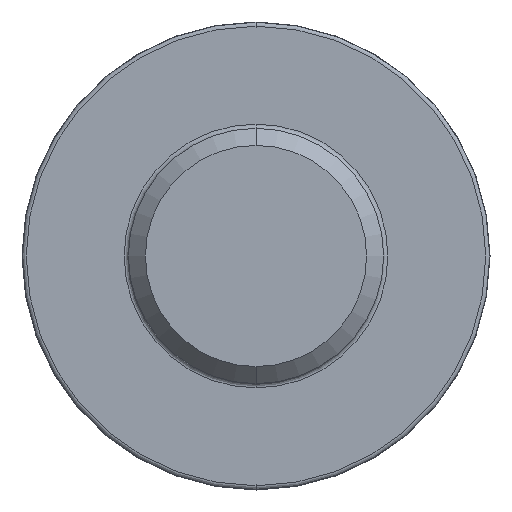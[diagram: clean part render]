
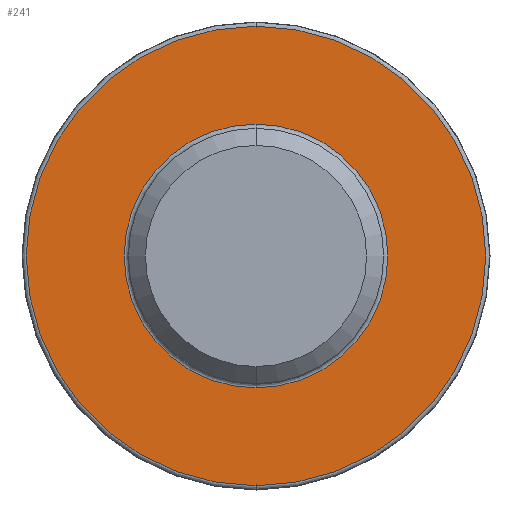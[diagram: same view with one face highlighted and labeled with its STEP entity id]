
A CAD part, front view. The second image highlights one B-rep face of the part: STEP entity #241.
In plain terms, the highlighted planar face has unit normal (0, -1, 0).
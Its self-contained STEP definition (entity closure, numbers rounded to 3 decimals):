
#24 = DIRECTION ( 'NONE',  ( 0., 0., 1. ) ) ;
#32 = DIRECTION ( 'NONE',  ( 0., 0., 1. ) ) ;
#38 = CARTESIAN_POINT ( 'NONE',  ( 0., -1.6, 1.55 ) ) ;
#66 = AXIS2_PLACEMENT_3D ( 'NONE', #770, #442, #32 ) ;
#70 = ORIENTED_EDGE ( 'NONE', *, *, #365, .T. ) ;
#75 = AXIS2_PLACEMENT_3D ( 'NONE', #476, #128, #118 ) ;
#78 = CARTESIAN_POINT ( 'NONE',  ( 0., -1.6, -1.55 ) ) ;
#107 = DIRECTION ( 'NONE',  ( 0., 1., 0. ) ) ;
#118 = DIRECTION ( 'NONE',  ( 0., 0., 1. ) ) ;
#128 = DIRECTION ( 'NONE',  ( 0., 1., 0. ) ) ;
#169 = CARTESIAN_POINT ( 'NONE',  ( 1.5, -1.6, 0. ) ) ;
#183 = DIRECTION ( 'NONE',  ( 0., 0., 1. ) ) ;
#241 = ADVANCED_FACE ( 'NONE', ( #310, #248 ), #577, .F. ) ;
#248 = FACE_OUTER_BOUND ( 'NONE', #475, .T. ) ;
#279 = VERTEX_POINT ( 'NONE', #795 ) ;
#287 = DIRECTION ( 'NONE',  ( 0., 1., 0. ) ) ;
#310 = FACE_BOUND ( 'NONE', #600, .T. ) ;
#311 = ORIENTED_EDGE ( 'NONE', *, *, #428, .T. ) ;
#365 = EDGE_CURVE ( 'NONE', #608, #523, #809, .T. ) ;
#378 = CIRCLE ( 'NONE', #66, 2.7 ) ;
#386 = VERTEX_POINT ( 'NONE', #799 ) ;
#403 = EDGE_CURVE ( 'NONE', #523, #608, #488, .T. ) ;
#428 = EDGE_CURVE ( 'NONE', #279, #386, #845, .T. ) ;
#429 = DIRECTION ( 'NONE',  ( 0., 0., 1. ) ) ;
#442 = DIRECTION ( 'NONE',  ( 0., -1., 0. ) ) ;
#475 = EDGE_LOOP ( 'NONE', ( #730, #311 ) ) ;
#476 = CARTESIAN_POINT ( 'NONE',  ( 0., -1.6, 0. ) ) ;
#488 = CIRCLE ( 'NONE', #719, 1.55 ) ;
#493 = CARTESIAN_POINT ( 'NONE',  ( 0., -1.6, 0. ) ) ;
#523 = VERTEX_POINT ( 'NONE', #78 ) ;
#574 = ORIENTED_EDGE ( 'NONE', *, *, #403, .T. ) ;
#577 = PLANE ( 'NONE',  #668 ) ;
#600 = EDGE_LOOP ( 'NONE', ( #70, #574 ) ) ;
#608 = VERTEX_POINT ( 'NONE', #38 ) ;
#668 = AXIS2_PLACEMENT_3D ( 'NONE', #169, #107, #183 ) ;
#704 = DIRECTION ( 'NONE',  ( 0., -1., 0. ) ) ;
#708 = EDGE_CURVE ( 'NONE', #386, #279, #378, .T. ) ;
#719 = AXIS2_PLACEMENT_3D ( 'NONE', #493, #287, #429 ) ;
#730 = ORIENTED_EDGE ( 'NONE', *, *, #708, .T. ) ;
#770 = CARTESIAN_POINT ( 'NONE',  ( 0., -1.6, 0. ) ) ;
#795 = CARTESIAN_POINT ( 'NONE',  ( 0., -1.6, -2.7 ) ) ;
#799 = CARTESIAN_POINT ( 'NONE',  ( 0., -1.6, 2.7 ) ) ;
#809 = CIRCLE ( 'NONE', #75, 1.55 ) ;
#824 = CARTESIAN_POINT ( 'NONE',  ( 0., -1.6, 0. ) ) ;
#830 = AXIS2_PLACEMENT_3D ( 'NONE', #824, #704, #24 ) ;
#845 = CIRCLE ( 'NONE', #830, 2.7 ) ;
